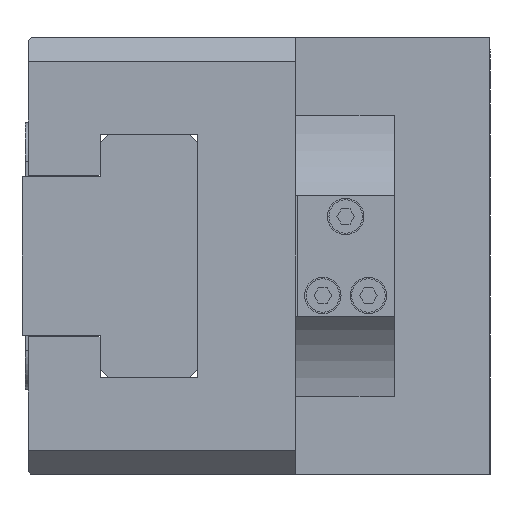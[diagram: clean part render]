
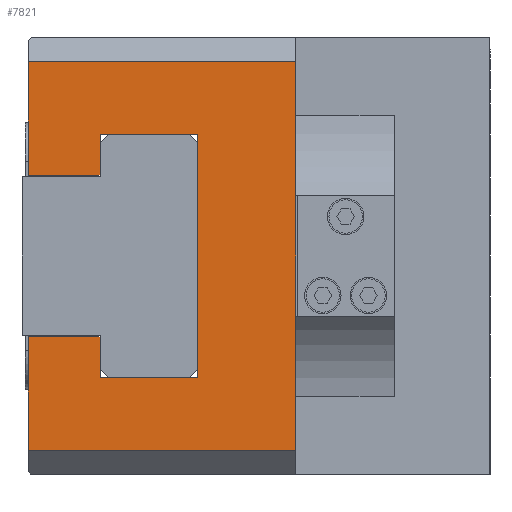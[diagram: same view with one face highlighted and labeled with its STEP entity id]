
A CAD part, left-side view. The second image highlights one B-rep face of the part: STEP entity #7821.
In plain terms, the highlighted planar face has unit normal (-1, 0, 0).
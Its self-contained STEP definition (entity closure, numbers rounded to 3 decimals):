
#37 = CARTESIAN_POINT ( 'NONE',  ( -80., 64.4, -13.25 ) ) ;
#150 = CARTESIAN_POINT ( 'NONE',  ( -80., 0., -13.25 ) ) ;
#446 = CARTESIAN_POINT ( 'NONE',  ( -80., 0., -32. ) ) ;
#867 = CARTESIAN_POINT ( 'NONE',  ( -80., 76., 32. ) ) ;
#1447 = LINE ( 'NONE', #18015, #12188 ) ;
#1790 = LINE ( 'NONE', #7825, #16571 ) ;
#1861 = VECTOR ( 'NONE', #13673, 1000. ) ;
#1909 = DIRECTION ( 'NONE',  ( 0., 0.707, 0.707 ) ) ;
#2207 = EDGE_CURVE ( 'NONE', #7952, #7591, #9658, .T. ) ;
#2306 = LINE ( 'NONE', #12275, #1861 ) ;
#2462 = CARTESIAN_POINT ( 'NONE',  ( -80., 32., 32. ) ) ;
#2599 = VERTEX_POINT ( 'NONE', #9020 ) ;
#3285 = ORIENTED_EDGE ( 'NONE', *, *, #14131, .T. ) ;
#3554 = VERTEX_POINT ( 'NONE', #9382 ) ;
#3583 = EDGE_CURVE ( 'NONE', #17362, #8981, #10513, .T. ) ;
#4121 = DIRECTION ( 'NONE',  ( 0., -0.707, 0.707 ) ) ;
#4187 = CARTESIAN_POINT ( 'NONE',  ( -80., 64.1, 13.55 ) ) ;
#4346 = CARTESIAN_POINT ( 'NONE',  ( -80., 0., -20. ) ) ;
#4513 = DIRECTION ( 'NONE',  ( 0., -1., 0. ) ) ;
#4515 = ORIENTED_EDGE ( 'NONE', *, *, #17244, .F. ) ;
#4525 = EDGE_CURVE ( 'NONE', #7039, #8485, #9151, .T. ) ;
#4639 = DIRECTION ( 'NONE',  ( 0., 0., -1. ) ) ;
#4694 = DIRECTION ( 'NONE',  ( 1., 0., 0. ) ) ;
#4799 = ORIENTED_EDGE ( 'NONE', *, *, #4525, .F. ) ;
#4868 = EDGE_CURVE ( 'NONE', #12911, #2599, #1447, .T. ) ;
#4898 = VERTEX_POINT ( 'NONE', #13919 ) ;
#4943 = CARTESIAN_POINT ( 'NONE',  ( -80., 0., 0. ) ) ;
#4987 = PLANE ( 'NONE',  #7371 ) ;
#5389 = LINE ( 'NONE', #10718, #9155 ) ;
#5489 = CARTESIAN_POINT ( 'NONE',  ( -80., 64.1, -13.55 ) ) ;
#5905 = VECTOR ( 'NONE', #9872, 1000. ) ;
#6188 = LINE ( 'NONE', #4346, #13583 ) ;
#6194 = VECTOR ( 'NONE', #10422, 1000. ) ;
#6284 = EDGE_CURVE ( 'NONE', #3554, #11561, #12587, .T. ) ;
#6321 = CARTESIAN_POINT ( 'NONE',  ( -80., 0., 20. ) ) ;
#6322 = VECTOR ( 'NONE', #1909, 1000. ) ;
#6478 = CARTESIAN_POINT ( 'NONE',  ( -80., 0., 13.25 ) ) ;
#6548 = DIRECTION ( 'NONE',  ( 0., 1., 0. ) ) ;
#6552 = EDGE_LOOP ( 'NONE', ( #15263, #11211, #3285, #8457, #4799, #6881, #7493, #8175, #4515, #6883, #8976, #14385, #16659, #12705 ) ) ;
#6602 = CARTESIAN_POINT ( 'NONE',  ( -80., 64.1, 13.55 ) ) ;
#6659 = LINE ( 'NONE', #14099, #14041 ) ;
#6881 = ORIENTED_EDGE ( 'NONE', *, *, #13745, .T. ) ;
#6883 = ORIENTED_EDGE ( 'NONE', *, *, #12178, .F. ) ;
#7039 = VERTEX_POINT ( 'NONE', #12938 ) ;
#7371 = AXIS2_PLACEMENT_3D ( 'NONE', #4943, #4694, #4639 ) ;
#7493 = ORIENTED_EDGE ( 'NONE', *, *, #6284, .F. ) ;
#7591 = VERTEX_POINT ( 'NONE', #9925 ) ;
#7821 = ADVANCED_FACE ( 'NONE', ( #10056 ), #4987, .F. ) ;
#7825 = CARTESIAN_POINT ( 'NONE',  ( -80., 76., 13.25 ) ) ;
#7952 = VERTEX_POINT ( 'NONE', #2462 ) ;
#8103 = VERTEX_POINT ( 'NONE', #867 ) ;
#8175 = ORIENTED_EDGE ( 'NONE', *, *, #17079, .F. ) ;
#8457 = ORIENTED_EDGE ( 'NONE', *, *, #16094, .T. ) ;
#8485 = VERTEX_POINT ( 'NONE', #17131 ) ;
#8621 = LINE ( 'NONE', #446, #6194 ) ;
#8639 = CARTESIAN_POINT ( 'NONE',  ( -80., 64.1, -20. ) ) ;
#8857 = DIRECTION ( 'NONE',  ( 0., 1., 0. ) ) ;
#8976 = ORIENTED_EDGE ( 'NONE', *, *, #10707, .F. ) ;
#8981 = VERTEX_POINT ( 'NONE', #37 ) ;
#9020 = CARTESIAN_POINT ( 'NONE',  ( -80., 76., -13.25 ) ) ;
#9151 = LINE ( 'NONE', #6478, #16009 ) ;
#9155 = VECTOR ( 'NONE', #12073, 1000. ) ;
#9240 = DIRECTION ( 'NONE',  ( 0., 0., -1. ) ) ;
#9301 = CARTESIAN_POINT ( 'NONE',  ( -80., 64.1, 0. ) ) ;
#9382 = CARTESIAN_POINT ( 'NONE',  ( -80., 64.1, 20. ) ) ;
#9500 = CARTESIAN_POINT ( 'NONE',  ( -80., 64.4, -13.25 ) ) ;
#9592 = VECTOR ( 'NONE', #8857, 1000. ) ;
#9658 = LINE ( 'NONE', #9808, #5905 ) ;
#9808 = CARTESIAN_POINT ( 'NONE',  ( -80., 32., 36. ) ) ;
#9872 = DIRECTION ( 'NONE',  ( 0., 0., -1. ) ) ;
#9882 = VERTEX_POINT ( 'NONE', #8639 ) ;
#9903 = DIRECTION ( 'NONE',  ( 0., -1., 0. ) ) ;
#9925 = CARTESIAN_POINT ( 'NONE',  ( -80., 32., -32. ) ) ;
#10056 = FACE_OUTER_BOUND ( 'NONE', #6552, .T. ) ;
#10422 = DIRECTION ( 'NONE',  ( 0., 1., 0. ) ) ;
#10513 = LINE ( 'NONE', #9500, #6322 ) ;
#10631 = LINE ( 'NONE', #150, #13847 ) ;
#10707 = EDGE_CURVE ( 'NONE', #17362, #9882, #6659, .T. ) ;
#10718 = CARTESIAN_POINT ( 'NONE',  ( -80., 76., 32. ) ) ;
#10734 = CARTESIAN_POINT ( 'NONE',  ( -80., 48.1, -20. ) ) ;
#11211 = ORIENTED_EDGE ( 'NONE', *, *, #2207, .F. ) ;
#11246 = EDGE_CURVE ( 'NONE', #2599, #8981, #10631, .T. ) ;
#11561 = VERTEX_POINT ( 'NONE', #6602 ) ;
#11967 = VECTOR ( 'NONE', #4121, 1000. ) ;
#12073 = DIRECTION ( 'NONE',  ( 0., 1., 0. ) ) ;
#12178 = EDGE_CURVE ( 'NONE', #9882, #13536, #6188, .T. ) ;
#12188 = VECTOR ( 'NONE', #17594, 1000. ) ;
#12275 = CARTESIAN_POINT ( 'NONE',  ( -80., 48.1, 0. ) ) ;
#12587 = LINE ( 'NONE', #9301, #16633 ) ;
#12705 = ORIENTED_EDGE ( 'NONE', *, *, #4868, .F. ) ;
#12892 = EDGE_CURVE ( 'NONE', #7591, #12911, #8621, .T. ) ;
#12911 = VERTEX_POINT ( 'NONE', #14519 ) ;
#12938 = CARTESIAN_POINT ( 'NONE',  ( -80., 64.4, 13.25 ) ) ;
#13536 = VERTEX_POINT ( 'NONE', #10734 ) ;
#13583 = VECTOR ( 'NONE', #9903, 1000. ) ;
#13673 = DIRECTION ( 'NONE',  ( 0., 0., 1. ) ) ;
#13745 = EDGE_CURVE ( 'NONE', #7039, #11561, #15603, .T. ) ;
#13847 = VECTOR ( 'NONE', #4513, 1000. ) ;
#13919 = CARTESIAN_POINT ( 'NONE',  ( -80., 48.1, 20. ) ) ;
#14041 = VECTOR ( 'NONE', #15463, 1000. ) ;
#14099 = CARTESIAN_POINT ( 'NONE',  ( -80., 64.1, 0. ) ) ;
#14131 = EDGE_CURVE ( 'NONE', #7952, #8103, #5389, .T. ) ;
#14385 = ORIENTED_EDGE ( 'NONE', *, *, #3583, .T. ) ;
#14519 = CARTESIAN_POINT ( 'NONE',  ( -80., 76., -32. ) ) ;
#15263 = ORIENTED_EDGE ( 'NONE', *, *, #12892, .F. ) ;
#15463 = DIRECTION ( 'NONE',  ( 0., 0., -1. ) ) ;
#15603 = LINE ( 'NONE', #4187, #11967 ) ;
#16009 = VECTOR ( 'NONE', #6548, 1000. ) ;
#16077 = DIRECTION ( 'NONE',  ( 0., 0., -1. ) ) ;
#16094 = EDGE_CURVE ( 'NONE', #8103, #8485, #1790, .T. ) ;
#16571 = VECTOR ( 'NONE', #16077, 1000. ) ;
#16633 = VECTOR ( 'NONE', #9240, 1000. ) ;
#16659 = ORIENTED_EDGE ( 'NONE', *, *, #11246, .F. ) ;
#17079 = EDGE_CURVE ( 'NONE', #4898, #3554, #17283, .T. ) ;
#17131 = CARTESIAN_POINT ( 'NONE',  ( -80., 76., 13.25 ) ) ;
#17244 = EDGE_CURVE ( 'NONE', #13536, #4898, #2306, .T. ) ;
#17283 = LINE ( 'NONE', #6321, #9592 ) ;
#17362 = VERTEX_POINT ( 'NONE', #5489 ) ;
#17594 = DIRECTION ( 'NONE',  ( 0., 0., 1. ) ) ;
#18015 = CARTESIAN_POINT ( 'NONE',  ( -80., 76., 0. ) ) ;
